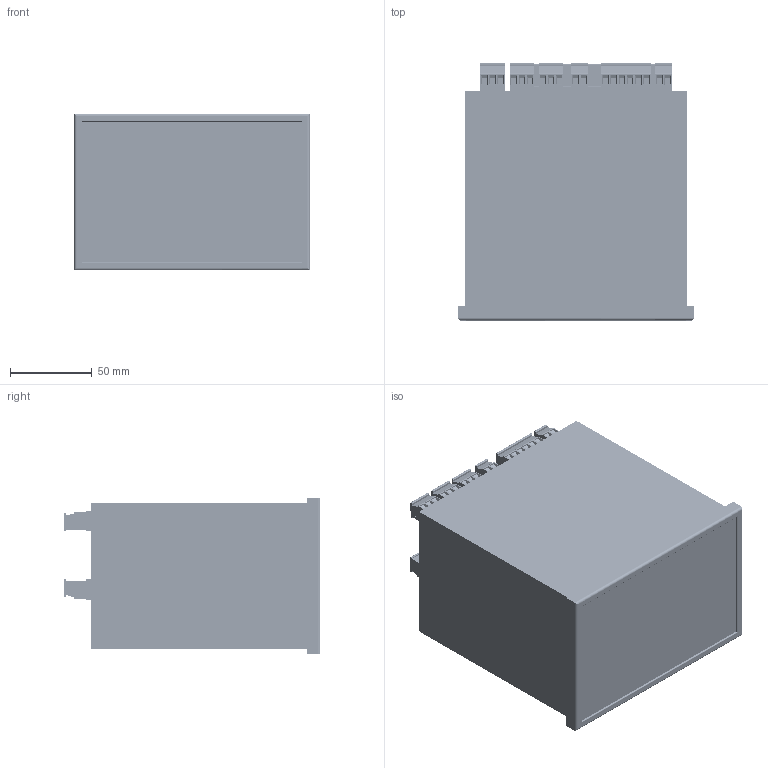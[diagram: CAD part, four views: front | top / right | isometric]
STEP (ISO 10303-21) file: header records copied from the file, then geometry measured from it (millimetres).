
FILE_DESCRIPTION (( 'STEP AP214' ), '1' );
FILE_NAME ('IRDH575.STEP', '2013-05-28T12:29:31', ( 'User' ), ( 'Bender' ), 'SwSTEP 2.0', 'SolidWorks 2013', '' );
FILE_SCHEMA (( 'AUTOMOTIVE_DESIGN' ));
Length unit declared in the file: millimetre
Products named in the file (26): l102906; A370181; l102807; A370189; XK6.; A370179; XK1.; ﾂ370185; ﾂ370187; ﾂ370183; IRDH575; A370175; A370195; A370193; Apra_445-323; XS202; XK202; XK204; XK205; XK206; XK201; XK203; S1; Apra_445-323_Rueckwand
Assembly tree (32 placements, depth 3):
  IRDH575
    l102807
      l102807
      XK1.  x5
      XK6.
    l102906
      l102906
      S1
      XK203
      XK201
      XK206
      XK205
      XK204
      XK202
      XS202  x2
    Apra_445-323
    A370193  x3
    A370195
    A370175
    ﾂ370183
    ﾂ370187
    ﾂ370185
    A370179
    A370189
    A370181
    Apra_445-323_Rueckwand
Bounding box: 144 x 156.83 x 95.75 mm (x, y, z)
Volume: 291680.4 mm3; surface area: 284902.9 mm2
Topology: 17 solids, 50 shells, 7475 faces, 20100 edges, 13158 vertices
Faces by surface type: plane 4545, cylinder 2889, cone 41
Entity records: 213323 total; most frequent: DIRECTION 32865, CARTESIAN_POINT 32342, ORIENTED_EDGE 31604, EDGE_CURVE 15802, AXIS2_PLACEMENT_3D 11302, VERTEX_POINT 10357, VECTOR 10261, LINE 10261
